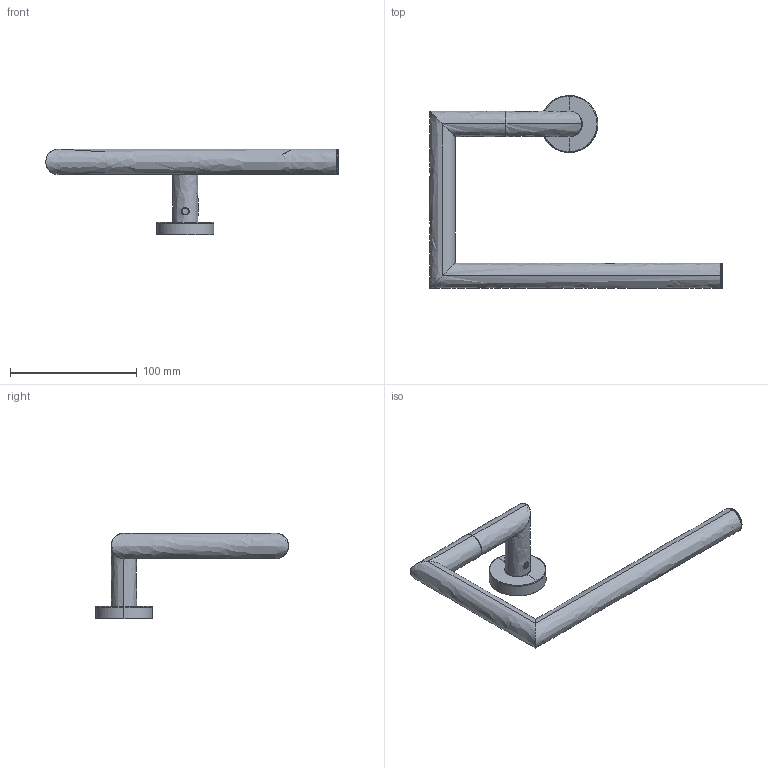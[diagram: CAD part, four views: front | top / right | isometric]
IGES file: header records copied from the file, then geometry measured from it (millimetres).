
Start section: SolidWorks IGES file using NURBS representation for surfaces
Global section: file name: G:\6- Varios\Dani-Olga\KUBIC\362057###-W.IGS; native system: SolidWorks 2016; preprocessor: SolidWorks 2016; author: buldan01; date: 190625.153629; units: millimetre
Bounding box: 231 x 152.5 x 67.5 mm (x, y, z)
Surface area: 65721.4 mm2 (no closed solid volume)
Topology: 0 solids, 0 shells, 352 faces, 5513 edges, 6414 vertices
Faces by surface type: bspline 352
